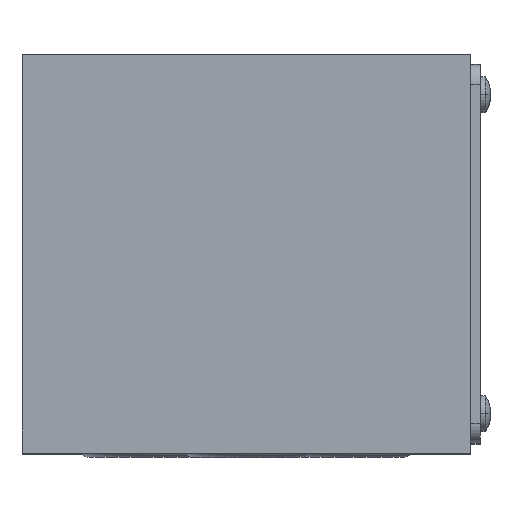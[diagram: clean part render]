
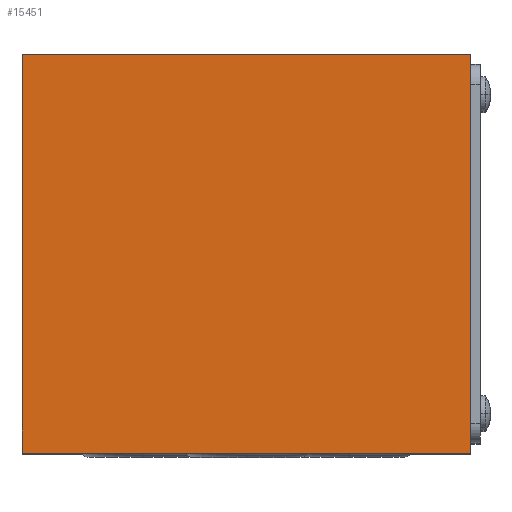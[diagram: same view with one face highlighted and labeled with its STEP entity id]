
A CAD part, top view. The second image highlights one B-rep face of the part: STEP entity #15451.
In plain terms, the highlighted planar face has unit normal (0, 0, 1).
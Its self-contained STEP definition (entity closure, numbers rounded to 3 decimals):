
#2892 = CARTESIAN_POINT ( 'NONE',  ( 22.5, -20., 32. ) ) ;
#3212 = EDGE_CURVE ( 'NONE', #13243, #65728, #60528, .T. ) ;
#3627 = FACE_OUTER_BOUND ( 'NONE', #58443, .T. ) ;
#4054 = CARTESIAN_POINT ( 'NONE',  ( -22.5, 20., 32. ) ) ;
#4334 = CARTESIAN_POINT ( 'NONE',  ( 22.5, -20., 32. ) ) ;
#5700 = LINE ( 'NONE', #24859, #61548 ) ;
#6717 = CARTESIAN_POINT ( 'NONE',  ( -22.5, 20., 32. ) ) ;
#8021 = ORIENTED_EDGE ( 'NONE', *, *, #16423, .F. ) ;
#9294 = DIRECTION ( 'NONE',  ( 0., 1., 0. ) ) ;
#9498 = DIRECTION ( 'NONE',  ( 1., 0., 0. ) ) ;
#13243 = VERTEX_POINT ( 'NONE', #43346 ) ;
#15451 = ADVANCED_FACE ( 'NONE', ( #3627 ), #63917, .F. ) ;
#16423 = EDGE_CURVE ( 'NONE', #65728, #59582, #5700, .T. ) ;
#16847 = CARTESIAN_POINT ( 'NONE',  ( 22.5, -20., 32. ) ) ;
#17753 = EDGE_CURVE ( 'NONE', #31784, #13243, #45638, .T. ) ;
#17941 = ORIENTED_EDGE ( 'NONE', *, *, #17753, .F. ) ;
#21257 = CARTESIAN_POINT ( 'NONE',  ( 22.5, 20., 32. ) ) ;
#22139 = DIRECTION ( 'NONE',  ( -1., 0., 0. ) ) ;
#24859 = CARTESIAN_POINT ( 'NONE',  ( 22.5, 20., 32. ) ) ;
#26737 = AXIS2_PLACEMENT_3D ( 'NONE', #16847, #53658, #22139 ) ;
#28329 = CARTESIAN_POINT ( 'NONE',  ( 22.5, 20., 32. ) ) ;
#31287 = LINE ( 'NONE', #21257, #45285 ) ;
#31784 = VERTEX_POINT ( 'NONE', #4334 ) ;
#35701 = DIRECTION ( 'NONE',  ( 0., -1., 0. ) ) ;
#42306 = VECTOR ( 'NONE', #50200, 1000. ) ;
#43346 = CARTESIAN_POINT ( 'NONE',  ( -22.5, -20., 32. ) ) ;
#43511 = ORIENTED_EDGE ( 'NONE', *, *, #3212, .F. ) ;
#45196 = EDGE_CURVE ( 'NONE', #59582, #31784, #31287, .T. ) ;
#45285 = VECTOR ( 'NONE', #35701, 1000. ) ;
#45638 = LINE ( 'NONE', #2892, #42306 ) ;
#50200 = DIRECTION ( 'NONE',  ( -1., 0., 0. ) ) ;
#52830 = ORIENTED_EDGE ( 'NONE', *, *, #45196, .F. ) ;
#53658 = DIRECTION ( 'NONE',  ( 0., 0., -1. ) ) ;
#58443 = EDGE_LOOP ( 'NONE', ( #52830, #8021, #43511, #17941 ) ) ;
#58856 = VECTOR ( 'NONE', #9294, 1000. ) ;
#59582 = VERTEX_POINT ( 'NONE', #28329 ) ;
#60528 = LINE ( 'NONE', #4054, #58856 ) ;
#61548 = VECTOR ( 'NONE', #9498, 1000. ) ;
#63917 = PLANE ( 'NONE',  #26737 ) ;
#65728 = VERTEX_POINT ( 'NONE', #6717 ) ;
